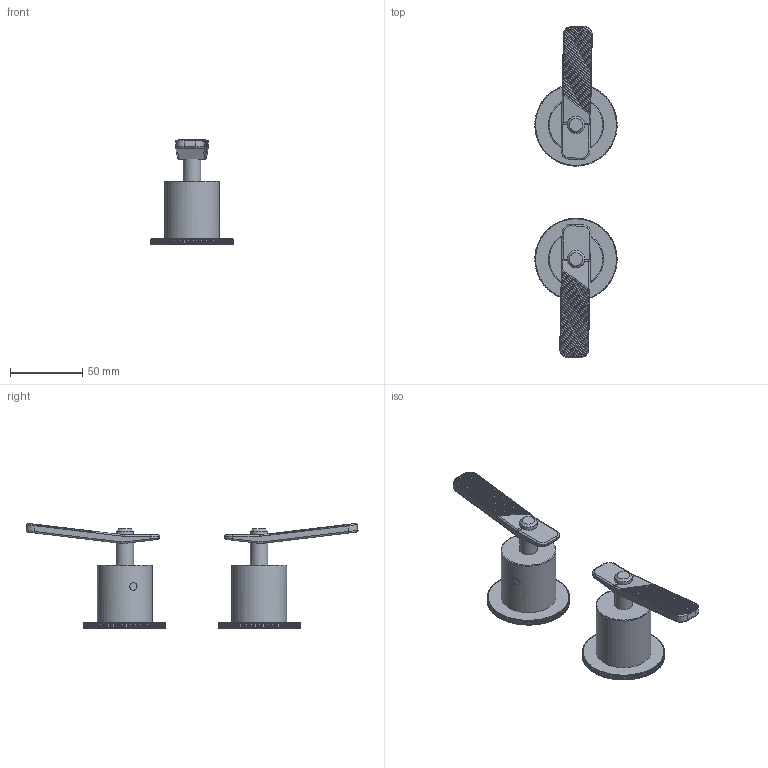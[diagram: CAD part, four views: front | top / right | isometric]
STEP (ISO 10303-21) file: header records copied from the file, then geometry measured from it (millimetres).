
FILE_DESCRIPTION (( 'STEP AP203' ), '1' );
FILE_NAME ('79124010 x architetti.STEP', '2023-09-21T10:00:12', ( '' ), ( '' ), 'SwSTEP 2.0', 'SolidWorks 2020', '' );
FILE_SCHEMA (( 'CONFIG_CONTROL_DESIGN' ));
Length unit declared in the file: millimetre
Products named in the file (2): 79124010 x architetti
Assembly tree (2 placements, depth 2):
  79124010 x architetti
    79124010 x architetti  x2
Bounding box: 57 x 230.06 x 72.81 mm (x, y, z)
Volume: 134806 mm3; surface area: 32483.6 mm2
Topology: 2 solids, 2 shells, 1406 faces, 3350 edges, 1956 vertices
Faces by surface type: cylinder 898, bspline 398, plane 88, torus 20, cone 2
Full cylindrical faces by diameter (mm): 5.3 x2, 12 x2, 12.2 x4, 38 x2
Entity records: 26461 total; most frequent: CARTESIAN_POINT 12218, ORIENTED_EDGE 3328, DIRECTION 2459, EDGE_CURVE 1664, VERTEX_POINT 974, AXIS2_PLACEMENT_3D 956, EDGE_LOOP 714, FACE_OUTER_BOUND 709
